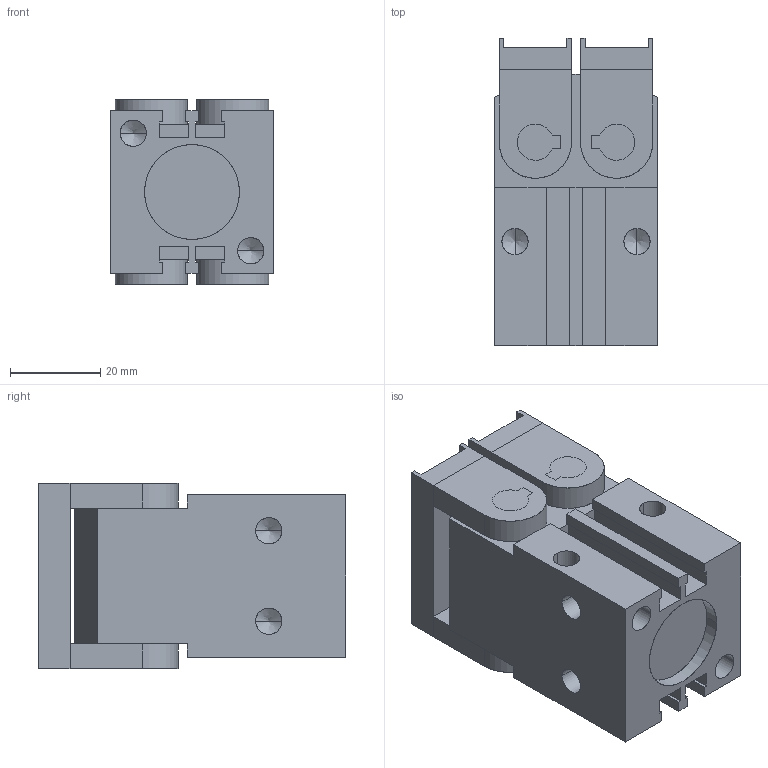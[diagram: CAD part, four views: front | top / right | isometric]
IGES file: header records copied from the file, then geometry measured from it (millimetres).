
Start section: SolidWorks IGES file using analytic representation for surfaces
Global section: file name: C:\Documents and Settings\1EDPI\Mes documents\Kevin 17.01.13\ghk\ghk20\GHK 20 close.IGS; native system: SolidWorks 2010; preprocessor: SolidWorks 2010; author: 1EDPI; date: 130304.104612; units: millimetre
Bounding box: 36 x 68 x 41 mm (x, y, z)
Surface area: 25695 mm2 (no closed solid volume)
Topology: 0 solids, 0 shells, 277 faces, 3284 edges, 3264 vertices
Faces by surface type: bspline 189, revolution 88
